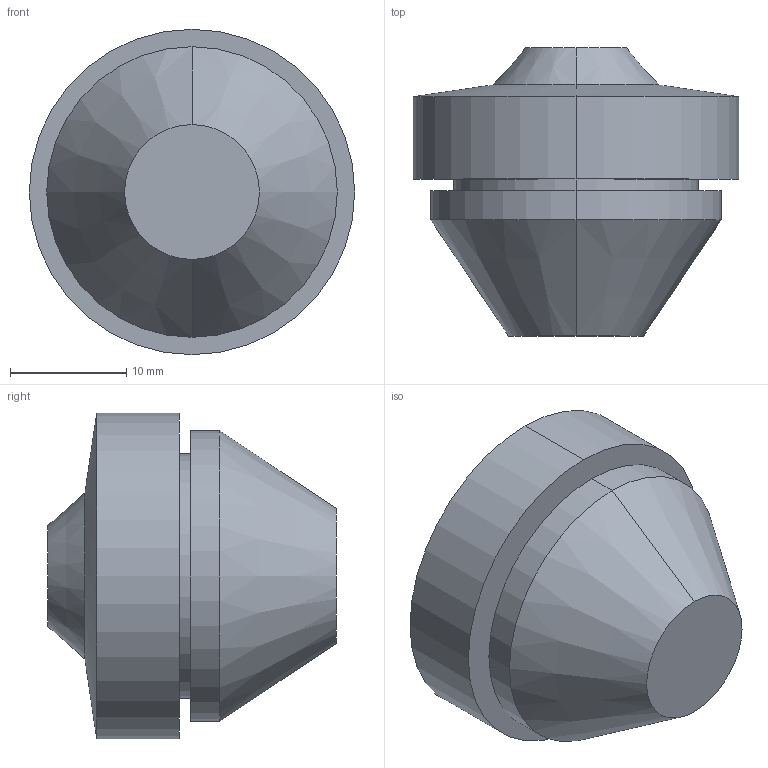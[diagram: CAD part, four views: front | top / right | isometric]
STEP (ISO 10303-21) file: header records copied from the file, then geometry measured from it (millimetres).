
FILE_DESCRIPTION (( 'STEP AP203' ), '1' );
FILE_NAME ('100729.STEP', '2012-10-29T10:22:09', ( 'Joni' ), ( 'Hewlett-Packard Company' ), 'SwSTEP 2.0', 'SolidWorks 2012', '' );
FILE_SCHEMA (( 'CONFIG_CONTROL_DESIGN' ));
Length unit declared in the file: millimetre
Products named in the file (1): 100729
Bounding box: 28 x 24.8 x 28 mm (x, y, z)
Volume: 9398.8 mm3; surface area: 2771.2 mm2
Topology: 1 solids, 1 shells, 16 faces, 30 edges, 18 vertices
Faces by surface type: cone 6, cylinder 6, plane 4
Entity records: 481 total; most frequent: DIRECTION 82, CARTESIAN_POINT 65, ORIENTED_EDGE 60, AXIS2_PLACEMENT_3D 35, EDGE_CURVE 30, CIRCLE 18, VERTEX_POINT 18, EDGE_LOOP 18
